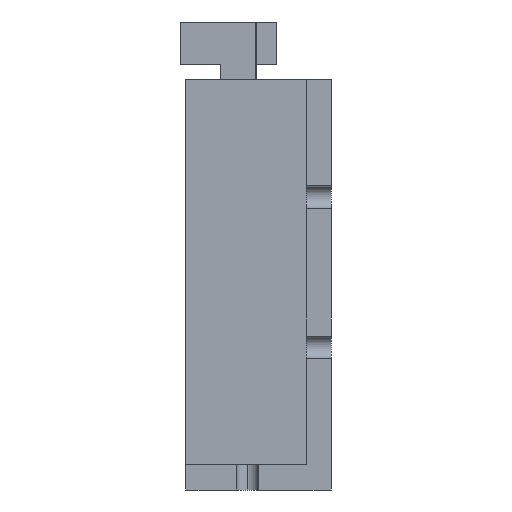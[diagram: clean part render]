
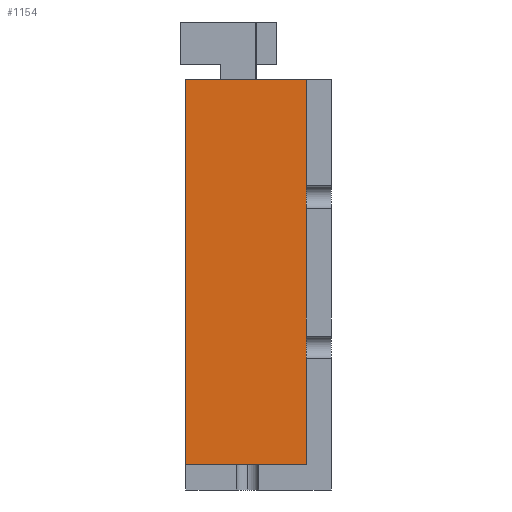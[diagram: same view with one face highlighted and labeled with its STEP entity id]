
A CAD part, left-side view. The second image highlights one B-rep face of the part: STEP entity #1154.
In plain terms, the highlighted planar face has unit normal (-1, 0, 0).
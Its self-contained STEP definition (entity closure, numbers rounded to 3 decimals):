
#41 = VECTOR ( 'NONE', #263, 1000. ) ;
#212 = VERTEX_POINT ( 'NONE', #2132 ) ;
#263 = DIRECTION ( 'NONE',  ( 0., 0., 1. ) ) ;
#308 = ORIENTED_EDGE ( 'NONE', *, *, #595, .F. ) ;
#333 = CARTESIAN_POINT ( 'NONE',  ( 7., 29., 0. ) ) ;
#341 = VECTOR ( 'NONE', #1337, 1000. ) ;
#358 = AXIS2_PLACEMENT_3D ( 'NONE', #2024, #2011, #994 ) ;
#421 = CARTESIAN_POINT ( 'NONE',  ( 7., 29., 0. ) ) ;
#516 = ORIENTED_EDGE ( 'NONE', *, *, #1657, .T. ) ;
#563 = CARTESIAN_POINT ( 'NONE',  ( 7., 29., -77. ) ) ;
#595 = EDGE_CURVE ( 'NONE', #1700, #2206, #1734, .T. ) ;
#660 = ORIENTED_EDGE ( 'NONE', *, *, #1608, .F. ) ;
#806 = PLANE ( 'NONE',  #358 ) ;
#914 = DIRECTION ( 'NONE',  ( 0., 1., 0. ) ) ;
#994 = DIRECTION ( 'NONE',  ( 0., 0., -1. ) ) ;
#1119 = EDGE_LOOP ( 'NONE', ( #2046, #308, #660, #516 ) ) ;
#1154 = ADVANCED_FACE ( 'NONE', ( #1726 ), #806, .F. ) ;
#1232 = CARTESIAN_POINT ( 'NONE',  ( 7., 29., -77. ) ) ;
#1283 = CARTESIAN_POINT ( 'NONE',  ( 7., 5., -77. ) ) ;
#1337 = DIRECTION ( 'NONE',  ( 0., 0., 1. ) ) ;
#1383 = LINE ( 'NONE', #421, #1848 ) ;
#1427 = LINE ( 'NONE', #1283, #41 ) ;
#1455 = VERTEX_POINT ( 'NONE', #1801 ) ;
#1541 = LINE ( 'NONE', #1994, #1962 ) ;
#1608 = EDGE_CURVE ( 'NONE', #212, #1700, #1541, .T. ) ;
#1657 = EDGE_CURVE ( 'NONE', #212, #1455, #1427, .T. ) ;
#1697 = EDGE_CURVE ( 'NONE', #1455, #2206, #1383, .T. ) ;
#1700 = VERTEX_POINT ( 'NONE', #563 ) ;
#1726 = FACE_OUTER_BOUND ( 'NONE', #1119, .T. ) ;
#1734 = LINE ( 'NONE', #1232, #341 ) ;
#1801 = CARTESIAN_POINT ( 'NONE',  ( 7., 5., 0. ) ) ;
#1802 = DIRECTION ( 'NONE',  ( 0., 1., 0. ) ) ;
#1848 = VECTOR ( 'NONE', #1802, 1000. ) ;
#1962 = VECTOR ( 'NONE', #914, 1000. ) ;
#1994 = CARTESIAN_POINT ( 'NONE',  ( 7., 29., -77. ) ) ;
#2011 = DIRECTION ( 'NONE',  ( 1., 0., 0. ) ) ;
#2024 = CARTESIAN_POINT ( 'NONE',  ( 7., 29., -77. ) ) ;
#2046 = ORIENTED_EDGE ( 'NONE', *, *, #1697, .T. ) ;
#2132 = CARTESIAN_POINT ( 'NONE',  ( 7., 5., -77. ) ) ;
#2206 = VERTEX_POINT ( 'NONE', #333 ) ;
